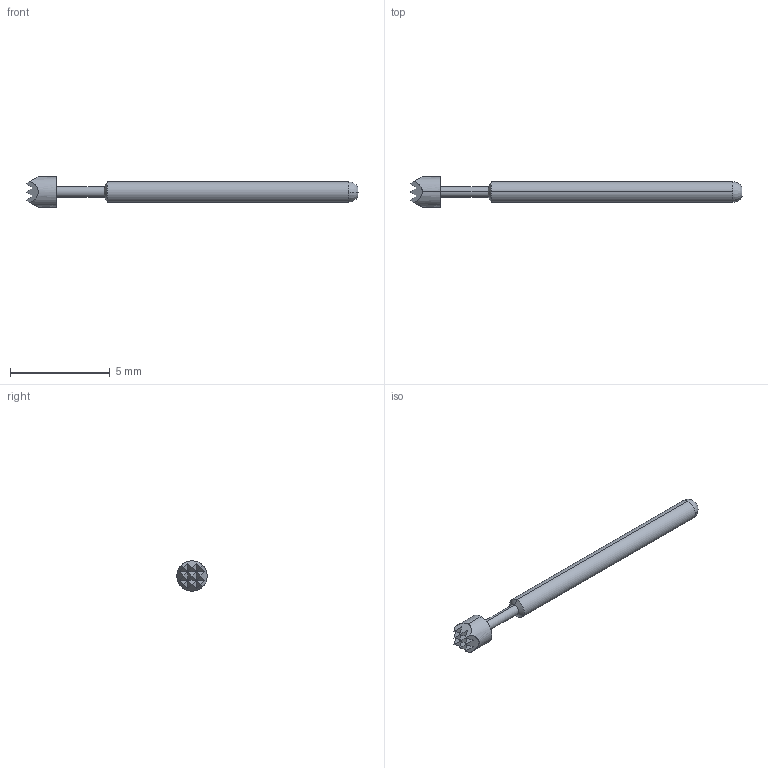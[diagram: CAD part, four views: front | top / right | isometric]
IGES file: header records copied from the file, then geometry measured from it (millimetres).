
Start section: SolidWorks IGES file using analytic representation for surfaces
Global section: file name: Z:\probe solid model mockups\Solidworks models\IGES Files\HPA-1\HPA-1H.IGS; native system: SolidWorks 2006 by SolidWorks Corporation; preprocessor: SolidWorks 2006 by SolidWorks Corporation; author: tsakatani; date: 071220.112412; units: inch
Bounding box: 16.64 x 1.52 x 1.52 mm (x, y, z)
Surface area: 55.2 mm2 (no closed solid volume)
Topology: 0 solids, 0 shells, 40 faces, 234 edges, 234 vertices
Faces by surface type: bspline 30, revolution 10
